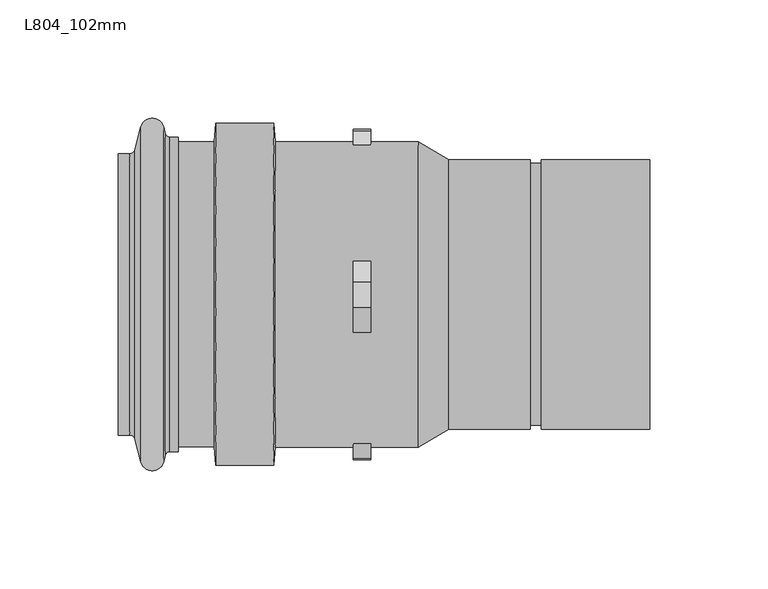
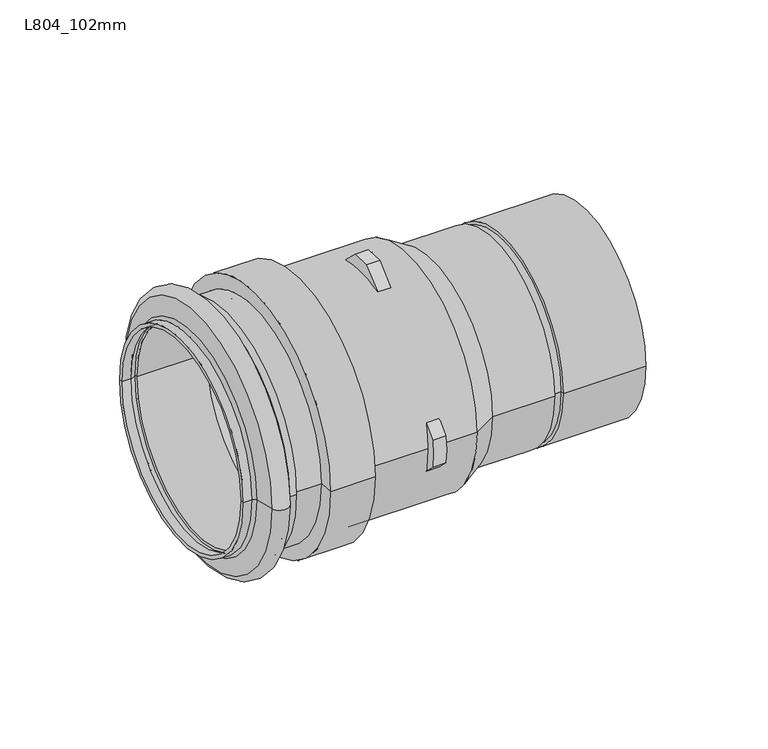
"""IFC4 building model written with IfcOpenShell, lengths in millimetres: pipe fitting geometry, Durapipe_PipeFitting_VulcatheneEnfusion_ThermalStressReliefUnit_L80 : L804_102mm."""

from ifc_helpers import new_model, si_unit, point, frame, origin, place, context, project, spatial, polyline, circle_curve, ellipse_curve, trimmed, source, transform, mapped, element, save
from ifc_brep_helpers import plane_surface, cylinder_surface, revolved_surface, advanced_brep


def l804_102mm_cf3d4d88(model_context):
    return source(origin(), model_context, "Body", "AdvancedBrep", [
        advanced_brep(
        [(66.5459304, -55.407112, 0.0), (66.5459304, 55.407112, 0.0), (66.5459304, 57.031523, 0.0), (66.5459304, -57.031523, 0.0), (61.7959304, -55.407112, 0.0), (61.7959304, 55.407112, 0.0), (61.7959304, -57.0475169, 0.0), (61.7959304, 57.0475169, 0.0), (27.4928021, -57.0475169, 0.0), (27.4928021, 57.0475169, 0.0), (14.4391906, -64.584023, 0.0), (14.4391906, 64.584023, 0.0), (-5.5753618, -64.584023, 0.0), (-5.5753618, -62.99436, -14.2410196), (-12.9314361, -62.99436, -14.2410196), (-12.9314361, -64.584023, 0.0), (-45.9514295, -64.584023, 0.0), (-45.9514295, 64.584023, 0.0), (-12.9314361, 64.584023, 0.0), (-12.9314361, 62.99436, -14.2410196), (-5.5753618, 62.99436, -14.2410196), (-5.5753618, 64.584023, 0.0), (-5.5753618, -1.3243286, -64.5704436), (-5.5753618, 14.4950782, -62.9363865), (-12.9314361, 14.4950782, -62.9363865), (-12.9314361, -1.3243286, -64.5704436), (-5.5753618, 62.99436, 14.2410196), (-12.9314361, 62.99436, 14.2410196), (-12.9314361, -62.99436, 14.2410196), (-5.5753618, -62.99436, 14.2410196), (-5.5753618, 14.2410196, 62.99436), (-5.5753618, -1.3243286, 64.5704436), (-12.9314361, -1.3243286, 64.5704436), (-12.9314361, 14.2410196, 62.99436), (-46.6294666, -72.334023, 0.0), (-46.6294666, 72.334023, 0.0), (-71.1720702, -72.334023, 0.0), (-71.1720702, 72.334023, 0.0), (-71.8582201, -64.491294, 0.0), (-71.8582201, 64.491294, 0.0), (-87.0, -64.491294, 0.0), (-87.0, 64.491294, 0.0), (-87.0, -66.4913601, 0.0), (-87.0, 66.4913601, 0.0), (-90.4956912, -66.4913601, 0.0), (-90.4956912, 66.4913601, 0.0), (-92.4275429, -67.9737221, 0.0), (-92.4275429, 67.9737221, 0.0), (-93.1929674, -70.830325, 0.0), (-93.1929674, 70.830325, 0.0), (-102.8522256, -70.830325, 0.0), (-102.8522256, 70.830325, 0.0), (-105.4907112, -60.9833626, 0.0), (-105.4907112, 60.9833626, 0.0), (-107.423867, -59.5, 0.0), (-107.423867, 59.5, 0.0), (-112.4, -59.5, 0.0), (-112.4, 59.5, 0.0), (-112.4, -57.5, 0.0), (-112.4, 57.5, 0.0), (-107.423867, -57.5, 0.0), (-107.423867, 57.5, 0.0), (-104.0094732, -57.5426377, 0.0), (-104.0094732, 57.5426377, 0.0), (-104.0094732, 59.4150334, 0.0), (-104.0094732, -59.4150334, 0.0), (-65.3594732, -57.5426377, 0.0), (-65.3594732, 57.5426377, 0.0), (-65.3594732, -65.3017877, 0.0), (-65.3594732, 65.3017877, 0.0), (-52.3594732, -65.3017877, 0.0), (-52.3594732, 65.3017877, 0.0), (-52.3594732, -57.5426377, 0.0), (-52.3594732, 57.5426377, 0.0), (12.5331209, -57.5426377, 0.0), (12.5331209, 57.5426377, 0.0), (25.2396442, -50.206523, 0.0), (25.2396442, 50.206523, 0.0), (112.4459304, -50.206523, 0.0), (112.4459304, 50.206523, 0.0), (112.4459304, -57.031523, 0.0), (112.4459304, 57.031523, 0.0), (-5.5753618, 5.4415035, 71.7938761), (-5.5753618, -5.4415035, 72.2602132), (-5.5753618, -16.2180029, 62.7006161), (-5.5753618, -69.2938761, 7.9415035), (-5.5753618, -69.2938761, -7.9415035), (-5.5753618, 69.2938761, -7.9415035), (-5.5753618, 69.2938761, 7.9415035), (-5.5753618, -16.2180029, -62.7006161), (-5.5753618, -5.4415035, -73.4771155), (-5.5753618, 5.4415035, -73.0203431), (-12.9314361, 5.4415035, -73.0203431), (-12.9314361, -5.4415035, -73.4771155), (-12.9314361, -16.2180029, -62.7006161), (-12.9314361, -69.2938761, -7.9415035), (-12.9314361, -69.2938761, 7.9415035), (-12.9314361, 69.2938761, 7.9415035), (-12.9314361, 69.2938761, -7.9415035), (-12.9314361, -16.2180029, 62.7006161), (-12.9314361, -5.4415035, 72.2602132), (-12.9314361, 5.4415035, 71.7938761)],
        [
            (0, 1, circle_curve(frame((66.5459304, 0.0, 0.0), z_axis=(1.0, 0.0, 0.0), x_axis=(0.0, 1.0, 0.0)), 55.407112)),
            (1, 2),
            (2, 3, circle_curve(frame((66.5459304, 0.0, 0.0), z_axis=(-1.0, 0.0, 0.0), x_axis=(0.0, 1.0, 0.0)), 57.031523)),
            (3, 0),
            (1, 0, circle_curve(frame((66.5459304, 0.0, 0.0), z_axis=(1.0, 0.0, 0.0), x_axis=(0.0, 1.0, 0.0)), 55.407112)),
            (3, 2, circle_curve(frame((66.5459304, 0.0, 0.0), z_axis=(-1.0, 0.0, 0.0), x_axis=(0.0, 1.0, 0.0)), 57.031523)),
            (0, 4),
            (4, 5, circle_curve(frame((61.7959304, 0.0, 0.0), z_axis=(1.0, 0.0, 0.0), x_axis=(0.0, 1.0, 0.0)), 55.407112)),
            (5, 1),
            (5, 4, circle_curve(frame((61.7959304, 0.0, 0.0), z_axis=(1.0, 0.0, 0.0), x_axis=(0.0, 1.0, 0.0)), 55.407112)),
            (4, 6),
            (6, 7, circle_curve(frame((61.7959304, 0.0, 0.0), z_axis=(1.0, 0.0, 0.0), x_axis=(0.0, 1.0, 0.0)), 57.0475169)),
            (7, 5),
            (7, 6, circle_curve(frame((61.7959304, 0.0, 0.0), z_axis=(1.0, 0.0, 0.0), x_axis=(0.0, 1.0, 0.0)), 57.0475169)),
            (6, 8),
            (8, 9, circle_curve(frame((27.4928021, 0.0, 0.0), z_axis=(1.0, 0.0, 0.0), x_axis=(0.0, 1.0, 0.0)), 57.0475169)),
            (9, 7),
            (9, 8, circle_curve(frame((27.4928021, 0.0, 0.0), z_axis=(1.0, 0.0, 0.0), x_axis=(0.0, 1.0, 0.0)), 57.0475169)),
            (8, 10),
            (10, 11, circle_curve(frame((14.4391906, 0.0, 0.0), z_axis=(1.0, 0.0, 0.0), x_axis=(0.0, 1.0, 0.0)), 64.584023)),
            (11, 9),
            (11, 10, circle_curve(frame((14.4391906, 0.0, 0.0), z_axis=(1.0, 0.0, 0.0), x_axis=(0.0, 1.0, 0.0)), 64.584023)),
            (10, 12),
            (12, 13, circle_curve(frame((-5.5753618, 0.0, 0.0), z_axis=(1.0, 0.0, 0.0), x_axis=(0.0, 1.0, 0.0)), 64.584023)),
            (13, 14),
            (14, 15, circle_curve(frame((-12.9314361, 0.0, 0.0), z_axis=(-1.0, 0.0, 0.0), x_axis=(0.0, 1.0, 0.0)), 64.584023)),
            (15, 16),
            (16, 17, circle_curve(frame((-45.9514295, 0.0, 0.0), z_axis=(1.0, 0.0, 0.0), x_axis=(0.0, 1.0, 0.0)), 64.584023)),
            (17, 18),
            (18, 19, circle_curve(frame((-12.9314361, 0.0, 0.0), z_axis=(-1.0, 0.0, 0.0), x_axis=(0.0, 1.0, 0.0)), 64.584023)),
            (19, 20),
            (20, 21, circle_curve(frame((-5.5753618, 0.0, 0.0), z_axis=(1.0, 0.0, 0.0), x_axis=(0.0, 1.0, 0.0)), 64.584023)),
            (21, 11),
            (22, 23, circle_curve(frame((-5.5753618, 0.0, 0.0), z_axis=(1.0, 0.0, 0.0), x_axis=(0.0, 1.0, 0.0)), 64.584023)),
            (23, 24),
            (24, 25, circle_curve(frame((-12.9314361, 0.0, 0.0), z_axis=(-1.0, 0.0, 0.0), x_axis=(0.0, 1.0, 0.0)), 64.584023)),
            (25, 22),
            (21, 26, circle_curve(frame((-5.5753618, 0.0, 0.0), z_axis=(1.0, 0.0, 0.0), x_axis=(0.0, 1.0, 0.0)), 64.584023)),
            (26, 27),
            (27, 18, circle_curve(frame((-12.9314361, 0.0, 0.0), z_axis=(-1.0, 0.0, 0.0), x_axis=(0.0, 1.0, 0.0)), 64.584023)),
            (17, 16, circle_curve(frame((-45.9514295, 0.0, 0.0), z_axis=(1.0, 0.0, 0.0), x_axis=(0.0, 1.0, 0.0)), 64.584023)),
            (15, 28, circle_curve(frame((-12.9314361, 0.0, 0.0), z_axis=(-1.0, 0.0, 0.0), x_axis=(0.0, 1.0, 0.0)), 64.584023)),
            (28, 29),
            (29, 12, circle_curve(frame((-5.5753618, 0.0, 0.0), z_axis=(1.0, 0.0, 0.0), x_axis=(0.0, 1.0, 0.0)), 64.584023)),
            (30, 31, circle_curve(frame((-5.5753618, 0.0, 0.0), z_axis=(1.0, 0.0, 0.0), x_axis=(0.0, 1.0, 0.0)), 64.584023)),
            (31, 32),
            (32, 33, circle_curve(frame((-12.9314361, 0.0, 0.0), z_axis=(-1.0, 0.0, 0.0), x_axis=(0.0, 1.0, 0.0)), 64.584023)),
            (33, 30),
            (16, 34),
            (34, 35, circle_curve(frame((-46.6294666, 0.0, 0.0), z_axis=(1.0, 0.0, 0.0), x_axis=(0.0, 1.0, 0.0)), 72.334023)),
            (35, 17),
            (35, 34, circle_curve(frame((-46.6294666, 0.0, 0.0), z_axis=(1.0, 0.0, 0.0), x_axis=(0.0, 1.0, 0.0)), 72.334023)),
            (34, 36),
            (36, 37, circle_curve(frame((-71.1720702, 0.0, 0.0), z_axis=(1.0, 0.0, 0.0), x_axis=(0.0, 1.0, 0.0)), 72.334023)),
            (37, 35),
            (37, 36, circle_curve(frame((-71.1720702, 0.0, 0.0), z_axis=(1.0, 0.0, 0.0), x_axis=(0.0, 1.0, 0.0)), 72.334023)),
            (36, 38),
            (38, 39, circle_curve(frame((-71.8582201, 0.0, 0.0), z_axis=(1.0, 0.0, 0.0), x_axis=(0.0, 1.0, 0.0)), 64.491294)),
            (39, 37),
            (39, 38, circle_curve(frame((-71.8582201, 0.0, 0.0), z_axis=(1.0, 0.0, 0.0), x_axis=(0.0, 1.0, 0.0)), 64.491294)),
            (38, 40),
            (40, 41, circle_curve(frame((-87.0, 0.0, 0.0), z_axis=(1.0, 0.0, 0.0), x_axis=(0.0, 1.0, 0.0)), 64.491294)),
            (41, 39),
            (41, 40, circle_curve(frame((-87.0, 0.0, 0.0), z_axis=(1.0, 0.0, 0.0), x_axis=(0.0, 1.0, 0.0)), 64.491294)),
            (40, 42),
            (42, 43, circle_curve(frame((-87.0, 0.0, 0.0), z_axis=(1.0, 0.0, 0.0), x_axis=(0.0, 1.0, 0.0)), 66.4913601)),
            (43, 41),
            (43, 42, circle_curve(frame((-87.0, 0.0, 0.0), z_axis=(1.0, 0.0, 0.0), x_axis=(0.0, 1.0, 0.0)), 66.4913601)),
            (42, 44),
            (44, 45, circle_curve(frame((-90.4956912, 0.0, 0.0), z_axis=(1.0, 0.0, 0.0), x_axis=(0.0, 1.0, 0.0)), 66.4913601)),
            (45, 43),
            (45, 44, circle_curve(frame((-90.4956912, 0.0, 0.0), z_axis=(1.0, 0.0, 0.0), x_axis=(0.0, 1.0, 0.0)), 66.4913601)),
            (44, 46, circle_curve(frame((-90.4956912, -68.4913601, 0.0), z_axis=(0.0, 0.0, 1.0), x_axis=(1.0, 0.0, 0.0)), 2.0)),
            (46, 47, circle_curve(frame((-92.4275429, 0.0, 0.0), z_axis=(1.0, 0.0, 0.0), x_axis=(0.0, 1.0, 0.0)), 67.9737221)),
            (47, 45, circle_curve(frame((-90.4956912, 68.4913601, 0.0), z_axis=(0.0, 0.0, 1.0), x_axis=(1.0, 0.0, 0.0)), 2.0)),
            (47, 46, circle_curve(frame((-92.4275429, 0.0, 0.0), z_axis=(1.0, 0.0, 0.0), x_axis=(0.0, 1.0, 0.0)), 67.9737221)),
            (46, 48),
            (48, 49, circle_curve(frame((-93.1929674, 0.0, 0.0), z_axis=(1.0, 0.0, 0.0), x_axis=(0.0, 1.0, 0.0)), 70.830325)),
            (49, 47),
            (49, 48, circle_curve(frame((-93.1929674, 0.0, 0.0), z_axis=(1.0, 0.0, 0.0), x_axis=(0.0, 1.0, 0.0)), 70.830325)),
            (48, 50, circle_curve(frame((-98.0225965, -69.5362298, 0.0), z_axis=(0.0, 0.0, -1.0), x_axis=(1.0, 0.0, 0.0)), 5.0)),
            (50, 51, circle_curve(frame((-102.8522256, 0.0, 0.0), z_axis=(1.0, 0.0, 0.0), x_axis=(0.0, 1.0, 0.0)), 70.830325)),
            (51, 49, circle_curve(frame((-98.0225965, 69.5362298, 0.0), z_axis=(0.0, 0.0, -1.0), x_axis=(1.0, 0.0, 0.0)), 5.0)),
            (51, 50, circle_curve(frame((-102.8522256, 0.0, 0.0), z_axis=(1.0, 0.0, 0.0), x_axis=(0.0, 1.0, 0.0)), 70.830325)),
            (50, 52),
            (52, 53, circle_curve(frame((-105.4907112, 0.0, 0.0), z_axis=(1.0, 0.0, 0.0), x_axis=(0.0, 1.0, 0.0)), 60.9833626)),
            (53, 51),
            (53, 52, circle_curve(frame((-105.4907112, 0.0, 0.0), z_axis=(1.0, 0.0, 0.0), x_axis=(0.0, 1.0, 0.0)), 60.9833626)),
            (52, 54, circle_curve(frame((-107.423867, -61.5013501, 0.0), z_axis=(0.0, 0.0, 1.0), x_axis=(1.0, 0.0, 0.0)), 2.0013501)),
            (54, 55, circle_curve(frame((-107.423867, 0.0, 0.0), z_axis=(1.0, 0.0, 0.0), x_axis=(0.0, 1.0, 0.0)), 59.5)),
            (55, 53, circle_curve(frame((-107.423867, 61.5013501, 0.0), z_axis=(0.0, 0.0, 1.0), x_axis=(1.0, 0.0, 0.0)), 2.0013501)),
            (55, 54, circle_curve(frame((-107.423867, 0.0, 0.0), z_axis=(1.0, 0.0, 0.0), x_axis=(0.0, 1.0, 0.0)), 59.5)),
            (54, 56),
            (56, 57, circle_curve(frame((-112.4, 0.0, 0.0), z_axis=(1.0, 0.0, 0.0), x_axis=(0.0, 1.0, 0.0)), 59.5)),
            (57, 55),
            (57, 56, circle_curve(frame((-112.4, 0.0, 0.0), z_axis=(1.0, 0.0, 0.0), x_axis=(0.0, 1.0, 0.0)), 59.5)),
            (56, 58),
            (58, 59, circle_curve(frame((-112.4, 0.0, 0.0), z_axis=(1.0, 0.0, 0.0), x_axis=(0.0, 1.0, 0.0)), 57.5)),
            (59, 57),
            (59, 58, circle_curve(frame((-112.4, 0.0, 0.0), z_axis=(1.0, 0.0, 0.0), x_axis=(0.0, 1.0, 0.0)), 57.5)),
            (58, 60),
            (60, 61, circle_curve(frame((-107.423867, 0.0, 0.0), z_axis=(1.0, 0.0, 0.0), x_axis=(0.0, 1.0, 0.0)), 57.5)),
            (61, 59),
            (61, 60, circle_curve(frame((-107.423867, 0.0, 0.0), z_axis=(1.0, 0.0, 0.0), x_axis=(0.0, 1.0, 0.0)), 57.5)),
            (62, 63, circle_curve(frame((-104.0094732, 0.0, 0.0), z_axis=(1.0, 0.0, 0.0), x_axis=(0.0, 1.0, 0.0)), 57.5426377)),
            (63, 64),
            (64, 65, circle_curve(frame((-104.0094732, 0.0, 0.0), z_axis=(-1.0, 0.0, 0.0), x_axis=(0.0, 1.0, 0.0)), 59.4150334)),
            (65, 62),
            (63, 62, circle_curve(frame((-104.0094732, 0.0, 0.0), z_axis=(1.0, 0.0, 0.0), x_axis=(0.0, 1.0, 0.0)), 57.5426377)),
            (65, 64, circle_curve(frame((-104.0094732, 0.0, 0.0), z_axis=(-1.0, 0.0, 0.0), x_axis=(0.0, 1.0, 0.0)), 59.4150334)),
            (62, 66),
            (66, 67, circle_curve(frame((-65.3594732, 0.0, 0.0), z_axis=(1.0, 0.0, 0.0), x_axis=(0.0, 1.0, 0.0)), 57.5426377)),
            (67, 63),
            (67, 66, circle_curve(frame((-65.3594732, 0.0, 0.0), z_axis=(1.0, 0.0, 0.0), x_axis=(0.0, 1.0, 0.0)), 57.5426377)),
            (66, 68),
            (68, 69, circle_curve(frame((-65.3594732, 0.0, 0.0), z_axis=(1.0, 0.0, 0.0), x_axis=(0.0, 1.0, 0.0)), 65.3017877)),
            (69, 67),
            (69, 68, circle_curve(frame((-65.3594732, 0.0, 0.0), z_axis=(1.0, 0.0, 0.0), x_axis=(0.0, 1.0, 0.0)), 65.3017877)),
            (68, 70),
            (70, 71, circle_curve(frame((-52.3594732, 0.0, 0.0), z_axis=(1.0, 0.0, 0.0), x_axis=(0.0, 1.0, 0.0)), 65.3017877)),
            (71, 69),
            (71, 70, circle_curve(frame((-52.3594732, 0.0, 0.0), z_axis=(1.0, 0.0, 0.0), x_axis=(0.0, 1.0, 0.0)), 65.3017877)),
            (70, 72),
            (72, 73, circle_curve(frame((-52.3594732, 0.0, 0.0), z_axis=(1.0, 0.0, 0.0), x_axis=(0.0, 1.0, 0.0)), 57.5426377)),
            (73, 71),
            (73, 72, circle_curve(frame((-52.3594732, 0.0, 0.0), z_axis=(1.0, 0.0, 0.0), x_axis=(0.0, 1.0, 0.0)), 57.5426377)),
            (72, 74),
            (74, 75, circle_curve(frame((12.5331209, 0.0, 0.0), z_axis=(1.0, 0.0, 0.0), x_axis=(0.0, 1.0, 0.0)), 57.5426377)),
            (75, 73),
            (75, 74, circle_curve(frame((12.5331209, 0.0, 0.0), z_axis=(1.0, 0.0, 0.0), x_axis=(0.0, 1.0, 0.0)), 57.5426377)),
            (74, 76),
            (76, 77, circle_curve(frame((25.2396442, 0.0, 0.0), z_axis=(1.0, 0.0, 0.0), x_axis=(0.0, 1.0, 0.0)), 50.206523)),
            (77, 75),
            (77, 76, circle_curve(frame((25.2396442, 0.0, 0.0), z_axis=(1.0, 0.0, 0.0), x_axis=(0.0, 1.0, 0.0)), 50.206523)),
            (76, 78),
            (78, 79, circle_curve(frame((112.4459304, 0.0, 0.0), z_axis=(1.0, 0.0, 0.0), x_axis=(0.0, 1.0, 0.0)), 50.206523)),
            (79, 77),
            (79, 78, circle_curve(frame((112.4459304, 0.0, 0.0), z_axis=(1.0, 0.0, 0.0), x_axis=(0.0, 1.0, 0.0)), 50.206523)),
            (78, 80),
            (80, 81, circle_curve(frame((112.4459304, 0.0, 0.0), z_axis=(1.0, 0.0, 0.0), x_axis=(0.0, 1.0, 0.0)), 57.031523)),
            (81, 79),
            (81, 80, circle_curve(frame((112.4459304, 0.0, 0.0), z_axis=(1.0, 0.0, 0.0), x_axis=(0.0, 1.0, 0.0)), 57.031523)),
            (2, 81),
            (80, 3),
            (60, 65, circle_curve(frame((-107.423867, -61.5013501, 0.0), z_axis=(0.0, 0.0, -1.0), x_axis=(1.0, 0.0, 0.0)), 4.0013501)),
            (64, 61, circle_curve(frame((-107.423867, 61.5013501, 0.0), z_axis=(0.0, 0.0, -1.0), x_axis=(1.0, 0.0, 0.0)), 4.0013501)),
            (82, 83, circle_curve(frame((-5.5753618, -2.5, 13.684023), z_axis=(1.0, 0.0, 0.0), x_axis=(0.0, 1.0, 0.0)), 58.65)),
            (83, 84),
            (84, 31, circle_curve(frame((-5.5753618, -2.5, 13.684023), z_axis=(-1.0, 0.0, 0.0), x_axis=(0.0, 1.0, 0.0)), 50.9)),
            (30, 82),
            (85, 86, circle_curve(frame((-5.5753618, -11.184023, 0.0), z_axis=(1.0, 0.0, 0.0), x_axis=(0.0, 1.0, 0.0)), 58.65)),
            (86, 13),
            (29, 85),
            (87, 88, circle_curve(frame((-5.5753618, 11.184023, 0.0), z_axis=(1.0, 0.0, 0.0), x_axis=(0.0, 1.0, 0.0)), 58.65)),
            (88, 26),
            (20, 87),
            (89, 90),
            (90, 91, circle_curve(frame((-5.5753618, -2.5, -13.684023), z_axis=(1.0, 0.0, 0.0), x_axis=(0.0, 1.0, 0.0)), 59.865402)),
            (91, 23),
            (22, 89, circle_curve(frame((-5.5753618, -2.5, -13.684023), z_axis=(-1.0, 0.0, 0.0), x_axis=(0.0, 1.0, 0.0)), 50.9)),
            (92, 93, circle_curve(frame((-12.9314361, -2.5, -13.684023), z_axis=(-1.0, 0.0, 0.0), x_axis=(0.0, 1.0, 0.0)), 59.865402)),
            (93, 94),
            (94, 25, circle_curve(frame((-12.9314361, -2.5, -13.684023), z_axis=(1.0, 0.0, 0.0), x_axis=(0.0, 1.0, 0.0)), 50.9)),
            (24, 92),
            (95, 96, circle_curve(frame((-12.9314361, -11.184023, 0.0), z_axis=(-1.0, 0.0, 0.0), x_axis=(0.0, 1.0, 0.0)), 58.65)),
            (96, 28),
            (14, 95),
            (97, 98, circle_curve(frame((-12.9314361, 11.184023, 0.0), z_axis=(-1.0, 0.0, 0.0), x_axis=(0.0, 1.0, 0.0)), 58.65)),
            (98, 19),
            (27, 97),
            (99, 100),
            (100, 101, circle_curve(frame((-12.9314361, -2.5, 13.684023), z_axis=(-1.0, 0.0, 0.0), x_axis=(0.0, 1.0, 0.0)), 58.65)),
            (101, 33),
            (32, 99, circle_curve(frame((-12.9314361, -2.5, 13.684023), z_axis=(1.0, 0.0, 0.0), x_axis=(0.0, 1.0, 0.0)), 50.9)),
            (101, 82),
            (100, 83),
            (99, 84),
            (89, 94),
            (93, 90),
            (92, 91),
            (96, 85),
            (95, 86),
            (98, 87),
            (97, 88),
        ],
        [
            plane_surface(frame((66.5459304, 0.0, 0.0), z_axis=(-1.0, 0.0, 0.0), x_axis=(0.0, 1.0, 0.0))),
            cylinder_surface(frame((-117.0037928, 0.0, 0.0), z_axis=(-1.0, 0.0, 0.0), x_axis=(0.0, 1.0, 0.0)), 55.407112),
            plane_surface(frame((61.7959304, 0.0, 0.0), z_axis=(1.0, 0.0, 0.0), x_axis=(0.0, 1.0, 0.0))),
            cylinder_surface(frame((-117.0037928, 0.0, 0.0), z_axis=(-1.0, 0.0, 0.0), x_axis=(0.0, 1.0, 0.0)), 57.0475169),
            revolved_surface(polyline([(27.4928021, 57.0475169, 0.0), (14.4391906, 64.584023, 0.0)]), (-117.0037928, 0.0, 0.0), (-1.0, 0.0, 0.0)),
            cylinder_surface(frame((-117.0037928, 0.0, 0.0), z_axis=(-1.0, 0.0, 0.0), x_axis=(0.0, 1.0, 0.0)), 64.584023),
            revolved_surface(polyline([(-45.9514295, 64.584023, 0.0), (-46.6294666, 72.334023, 0.0)]), (-117.0037928, 0.0, 0.0), (-1.0, 0.0, 0.0)),
            cylinder_surface(frame((-117.0037928, 0.0, 0.0), z_axis=(-1.0, 0.0, 0.0), x_axis=(0.0, 1.0, 0.0)), 72.334023),
            revolved_surface(polyline([(-71.1720702, 72.334023, 0.0), (-71.8582201, 64.491294, 0.0)]), (-117.0037928, 0.0, 0.0), (-1.0, 0.0, 0.0)),
            cylinder_surface(frame((-117.0037928, 0.0, 0.0), z_axis=(-1.0, 0.0, 0.0), x_axis=(0.0, 1.0, 0.0)), 64.491294),
            plane_surface(frame((-87.0, 0.0, 0.0), z_axis=(1.0, 0.0, 0.0), x_axis=(0.0, 1.0, 0.0))),
            cylinder_surface(frame((-117.0037928, 0.0, 0.0), z_axis=(-1.0, 0.0, 0.0), x_axis=(0.0, 1.0, 0.0)), 66.4913601),
            revolved_surface(trimmed(ellipse_curve(frame((-90.4956912, 68.4913601, 0.0), z_axis=(0.0, 0.0, -1.0), x_axis=(1.0, 0.0, 0.0)), 2.0, 2.0), [point((-90.4956912, 66.4913601, 0.0))], [point((-92.4275429, 67.9737221, 0.0))], True, "CARTESIAN"), (-117.0037928, 0.0, 0.0), (-1.0, 0.0, 0.0)),
            revolved_surface(polyline([(-92.4275429, 67.9737221, 0.0), (-93.1929674, 70.830325, 0.0)]), (-117.0037928, 0.0, 0.0), (-1.0, 0.0, 0.0)),
            revolved_surface(trimmed(ellipse_curve(frame((-98.0225965, 69.5362298, 0.0), z_axis=(0.0, 0.0, 1.0), x_axis=(1.0, 0.0, 0.0)), 5.0, 5.0), [point((-93.1929674, 70.830325, 0.0))], [point((-102.8522256, 70.830325, 0.0))], True, "CARTESIAN"), (-117.0037928, 0.0, 0.0), (-1.0, 0.0, 0.0)),
            revolved_surface(polyline([(-102.8522256, 70.830325, 0.0), (-105.4907112, 60.9833626, 0.0)]), (-117.0037928, 0.0, 0.0), (-1.0, 0.0, 0.0)),
            revolved_surface(trimmed(ellipse_curve(frame((-107.423867, 61.5013501, 0.0), z_axis=(0.0, 0.0, -1.0), x_axis=(1.0, 0.0, 0.0)), 2.0013501, 2.0013501), [point((-105.4907112, 60.9833626, 0.0))], [point((-107.423867, 59.5, 0.0))], True, "CARTESIAN"), (-117.0037928, 0.0, 0.0), (-1.0, 0.0, 0.0)),
            cylinder_surface(frame((-117.0037928, 0.0, 0.0), z_axis=(-1.0, 0.0, 0.0), x_axis=(0.0, 1.0, 0.0)), 59.5),
            plane_surface(frame((-112.4, 0.0, 0.0), z_axis=(-1.0, 0.0, 0.0), x_axis=(0.0, 1.0, 0.0))),
            revolved_surface(polyline([(-112.4, 57.5, 0.0), (-107.423867, 57.5, 0.0)]), (-117.0037928, 0.0, 0.0), (-1.0, 0.0, 0.0)),
            plane_surface(frame((-104.0094732, 0.0, 0.0), z_axis=(-1.0, 0.0, 0.0), x_axis=(0.0, 1.0, 0.0))),
            revolved_surface(polyline([(-104.0094732, 57.5426377, 0.0), (-65.3594732, 57.5426377, 0.0)]), (-117.0037928, 0.0, 0.0), (-1.0, 0.0, 0.0)),
            plane_surface(frame((-65.3594732, 0.0, 0.0), z_axis=(1.0, 0.0, 0.0), x_axis=(0.0, 1.0, 0.0))),
            revolved_surface(polyline([(-65.3594732, 65.3017877, 0.0), (-52.3594732, 65.3017877, 0.0)]), (-117.0037928, 0.0, 0.0), (-1.0, 0.0, 0.0)),
            plane_surface(frame((-52.3594732, 0.0, 0.0), z_axis=(-1.0, 0.0, 0.0), x_axis=(0.0, 1.0, 0.0))),
            revolved_surface(polyline([(-52.3594732, 57.5426377, 0.0), (12.533120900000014, 57.5426377, 0.0)]), (-117.0037928, 0.0, 0.0), (-1.0, 0.0, 0.0)),
            revolved_surface(polyline([(12.5331209, 57.5426377, 0.0), (25.2396442, 50.206523, 0.0)]), (-117.0037928, 0.0, 0.0), (-1.0, 0.0, 0.0)),
            revolved_surface(polyline([(25.2396442, 50.206523, 0.0), (112.4459304, 50.206523, 0.0)]), (-117.0037928, 0.0, 0.0), (-1.0, 0.0, 0.0)),
            plane_surface(frame((112.4459304, 0.0, 0.0), z_axis=(1.0, 0.0, 0.0), x_axis=(0.0, 1.0, 0.0))),
            cylinder_surface(frame((-117.0037928, 0.0, 0.0), z_axis=(-1.0, 0.0, 0.0), x_axis=(0.0, 1.0, 0.0)), 57.031523),
            revolved_surface(trimmed(ellipse_curve(frame((-107.423867, 61.5013501, 0.0), z_axis=(0.0, 0.0, 1.0), x_axis=(1.0, 0.0, 0.0)), 4.0013501, 4.0013501), [point((-107.423867, 57.5, 0.0))], [point((-104.0094732, 59.4150334, 0.0))], True, "CARTESIAN"), (-117.0037928, 0.0, 0.0), (-1.0, 0.0, 0.0)),
            plane_surface(frame((-5.5753618, 5.5, 71.7353796), z_axis=(1.0, 0.0, 0.0), x_axis=(0.0, -0.7071067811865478, 0.7071067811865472))),
            plane_surface(frame((-12.9314361, 5.5, 71.7353796), z_axis=(-1.0, 0.0, 0.0), x_axis=(0.0, 0.7071067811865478, -0.7071067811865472))),
            plane_surface(frame((-5.5753618, 16.2180029, 61.0173767), z_axis=(0.0, 0.7071067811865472, 0.7071067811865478), x_axis=(-1.0, 0.0, 0.0))),
            cylinder_surface(frame((-12.9314361, -2.5, 13.684023), z_axis=(1.0, 0.0, 0.0), x_axis=(0.0, 1.0, 0.0)), 58.65),
            plane_surface(frame((-5.5753618, -5.4415035, 72.2602132), z_axis=(0.0, -0.663606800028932, 0.7480815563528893), x_axis=(-1.0, 0.0, 0.0))),
            plane_surface(frame((-5.5753618, -16.2180029, -62.7006161), z_axis=(0.0, -0.7071067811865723, -0.7071067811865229), x_axis=(-1.0, 0.0, 0.0))),
            cylinder_surface(frame((0.0, -2.5, -13.684023), z_axis=(1.0, 0.0, 0.0), x_axis=(0.0, 1.0, 0.0)), 59.865402),
            plane_surface(frame((-5.5753618, 5.4415035, -73.0203431), z_axis=(0.0, 0.7441003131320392, -0.6680679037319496), x_axis=(-1.0, 0.0, 0.0))),
            plane_surface(frame((-5.5753618, -58.5173767, 18.7180029), z_axis=(0.0, -0.7071067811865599, 0.7071067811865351), x_axis=(-1.0, 0.0, 0.0))),
            cylinder_surface(frame((0.0, -11.184023, 0.0), z_axis=(1.0, 0.0, 0.0), x_axis=(0.0, 1.0, 0.0)), 58.65),
            plane_surface(frame((-5.5753618, -69.2938761, -7.9415035), z_axis=(0.0, -0.7071067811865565, -0.7071067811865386), x_axis=(-1.0, 0.0, 0.0))),
            plane_surface(frame((-5.5753618, 58.5173767, -18.7180029), z_axis=(0.0, 0.707106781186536, -0.707106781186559), x_axis=(-1.0, 0.0, 0.0))),
            cylinder_surface(frame((0.0, 11.184023, 0.0), z_axis=(1.0, 0.0, 0.0), x_axis=(0.0, 1.0, 0.0)), 58.65),
            plane_surface(frame((-5.5753618, 69.2938761, 7.9415035), z_axis=(0.0, 0.7071067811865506, 0.7071067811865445), x_axis=(-1.0, 0.0, 0.0))),
            revolved_surface(polyline([(-12.9314361, 48.4, 13.684023), (-5.5753618, 48.4, 13.684023)]), (-12.9314361, -2.5, 13.684023), (-1.0, 0.0, 0.0)),
            revolved_surface(polyline([(-12.9314361, 48.4, -13.684023), (-5.5753618, 48.4, -13.684023)]), (0.0, -2.5, -13.684023), (-1.0, 0.0, 0.0)),
        ],
        [
            (0, [[1, 2, 3, 4]]),
            (0, [[-2, 5, -4, 6]]),
            (1, [[-1, 7, 8, 9]]),
            (1, [[-5, -9, 10, -7]]),
            (2, [[-8, 11, 12, 13]]),
            (2, [[-10, -13, 14, -11]]),
            (3, [[-12, 15, 16, 17]]),
            (3, [[-14, -17, 18, -15]]),
            (4, [[-16, 19, 20, 21]]),
            (4, [[-18, -21, 22, -19]]),
            (5, [[-20, 23, 24, 25, 26, 27, 28, 29, 30, 31, 32, 33], [34, 35, 36, 37]]),
            (5, [[-22, -33, 38, 39, 40, -29, 41, -27, 42, 43, 44, -23], [45, 46, 47, 48]]),
            (6, [[-28, 49, 50, 51]]),
            (6, [[-41, -51, 52, -49]]),
            (7, [[-50, 53, 54, 55]]),
            (7, [[-52, -55, 56, -53]]),
            (8, [[-54, 57, 58, 59]]),
            (8, [[-56, -59, 60, -57]]),
            (9, [[-58, 61, 62, 63]]),
            (9, [[-60, -63, 64, -61]]),
            (10, [[-62, 65, 66, 67]]),
            (10, [[-64, -67, 68, -65]]),
            (11, [[-66, 69, 70, 71]]),
            (11, [[-68, -71, 72, -69]]),
            (12, [[-70, 73, 74, 75]]),
            (12, [[-72, -75, 76, -73]]),
            (13, [[-74, 77, 78, 79]]),
            (13, [[-76, -79, 80, -77]]),
            (14, [[-78, 81, 82, 83]]),
            (14, [[-80, -83, 84, -81]]),
            (15, [[-82, 85, 86, 87]]),
            (15, [[-84, -87, 88, -85]]),
            (16, [[-86, 89, 90, 91]]),
            (16, [[-88, -91, 92, -89]]),
            (17, [[-90, 93, 94, 95]]),
            (17, [[-92, -95, 96, -93]]),
            (18, [[-94, 97, 98, 99]]),
            (18, [[-96, -99, 100, -97]]),
            (19, [[-98, 101, 102, 103]]),
            (19, [[-100, -103, 104, -101]]),
            (20, [[105, 106, 107, 108]]),
            (20, [[-106, 109, -108, 110]]),
            (21, [[-105, 111, 112, 113]]),
            (21, [[-109, -113, 114, -111]]),
            (22, [[-112, 115, 116, 117]]),
            (22, [[-114, -117, 118, -115]]),
            (23, [[-116, 119, 120, 121]]),
            (23, [[-118, -121, 122, -119]]),
            (24, [[-120, 123, 124, 125]]),
            (24, [[-122, -125, 126, -123]]),
            (25, [[-124, 127, 128, 129]]),
            (25, [[-126, -129, 130, -127]]),
            (26, [[-128, 131, 132, 133]]),
            (26, [[-130, -133, 134, -131]]),
            (27, [[-132, 135, 136, 137]]),
            (27, [[-134, -137, 138, -135]]),
            (28, [[-136, 139, 140, 141]]),
            (28, [[-138, -141, 142, -139]]),
            (29, [[-3, 143, -140, 144]]),
            (29, [[-6, -144, -142, -143]]),
            (30, [[-102, 145, -107, 146]]),
            (30, [[-104, -146, -110, -145]]),
            (31, [[147, 148, 149, -45, 150]]),
            (31, [[151, 152, -24, -44, 153]]),
            (31, [[154, 155, -38, -32, 156]]),
            (31, [[157, 158, 159, -34, 160]]),
            (32, [[161, 162, 163, -36, 164]]),
            (32, [[165, 166, -42, -26, 167]]),
            (32, [[168, 169, -30, -40, 170]]),
            (32, [[171, 172, 173, -47, 174]]),
            (33, [[175, -150, -48, -173]]),
            (34, [[-147, -175, -172, 176]]),
            (35, [[-148, -176, -171, 177]]),
            (36, [[-157, 178, -162, 179]]),
            (37, [[-158, -179, -161, 180]]),
            (38, [[-180, -164, -35, -159]]),
            (39, [[181, -153, -43, -166]]),
            (40, [[-151, -181, -165, 182]]),
            (41, [[-182, -167, -25, -152]]),
            (42, [[183, -156, -31, -169]]),
            (43, [[-154, -183, -168, 184]]),
            (44, [[-184, -170, -39, -155]]),
            (45, [[-177, -174, -46, -149]]),
            (46, [[-178, -160, -37, -163]]),
        ],
    ),
    ])


if __name__ == "__main__":
    model = new_model("IFC4")
    model_context = context("Model", 3, world=origin())
    ifc_project = project(units=[si_unit("LENGTHUNIT", "METRE", prefix="MILLI")], contexts=[model_context])
    site = spatial("IfcSite", under=ifc_project)
    building = spatial("IfcBuilding", under=site)
    placement = place(None, origin())
    l804_102mm_shape = l804_102mm_cf3d4d88(model_context)
    element("IfcPipeFitting", 1, ObjectType="Durapipe_PipeFitting_VulcatheneEnfusion_ThermalStressReliefUnit_L80 : L804_102mm", at=placement, inside=building, context=model_context, shape_type="MappedRepresentation", body=[
        mapped(l804_102mm_shape, transform((0.0, 0.0, 0.0), x_axis=(1.0, 0.0, 0.0), y_axis=(0.0, 1.0, 0.0), z_axis=(0.0, 0.0, 1.0))),
    ])
    save(model, "model.ifc")
